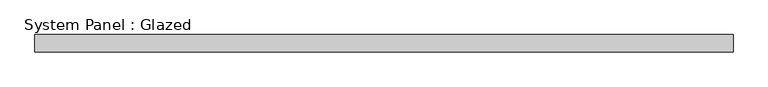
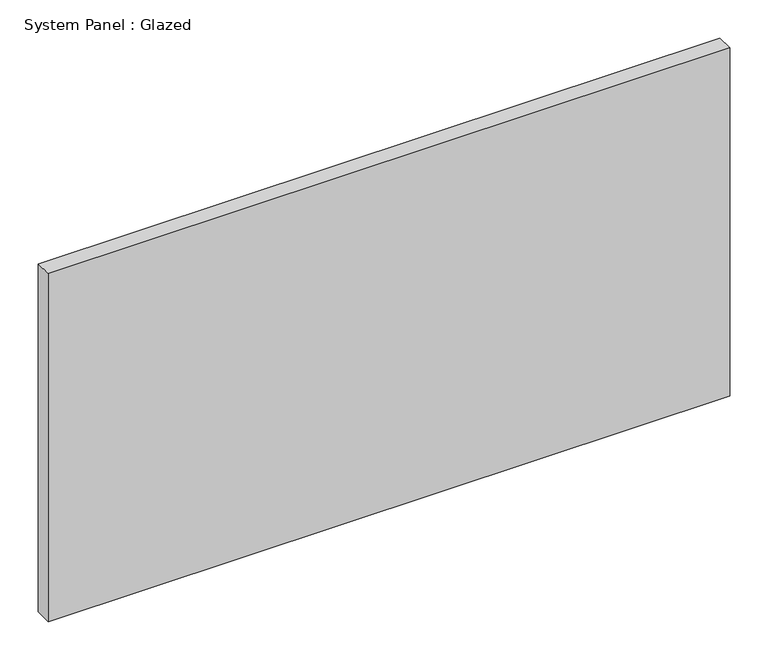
"""IFC4 building model written with IfcOpenShell, lengths in millimetres: plate geometry, System Panel : Glazed."""

from ifc_helpers import new_model, si_unit, origin, origin_with_axes, place, context, project, spatial, polyline, outline, extrude, source, transform, mapped, element, save


def system_panel_glazed_bfbe60e1(model_context):
    return source(origin(), model_context, "Body", "SweptSolid", [
        extrude(outline(polyline([(513.5714285, 19.05), (-513.5714285, 19.05), (-513.5714285, 44.45), (513.5714285, 44.45), (513.5714285, 19.05)])), origin_with_axes(), (0.0, 0.0, 1.0), 555.0),
    ])


if __name__ == "__main__":
    model = new_model("IFC4")
    model_context = context("Model", 3, world=origin())
    ifc_project = project(units=[si_unit("LENGTHUNIT", "METRE", prefix="MILLI")], contexts=[model_context])
    site = spatial("IfcSite", under=ifc_project)
    building = spatial("IfcBuilding", under=site)
    placement = place(None, origin())
    system_panel_glazed_shape = system_panel_glazed_bfbe60e1(model_context)
    element("IfcPlate", 1, ObjectType="System Panel : Glazed", at=placement, inside=building, context=model_context, shape_type="MappedRepresentation", body=[
        mapped(system_panel_glazed_shape, transform((0.0, 0.0, 0.0), x_axis=(1.0, 0.0, 0.0), y_axis=(0.0, 1.0, 0.0), z_axis=(0.0, 0.0, 1.0))),
    ])
    save(model, "model.ifc")
